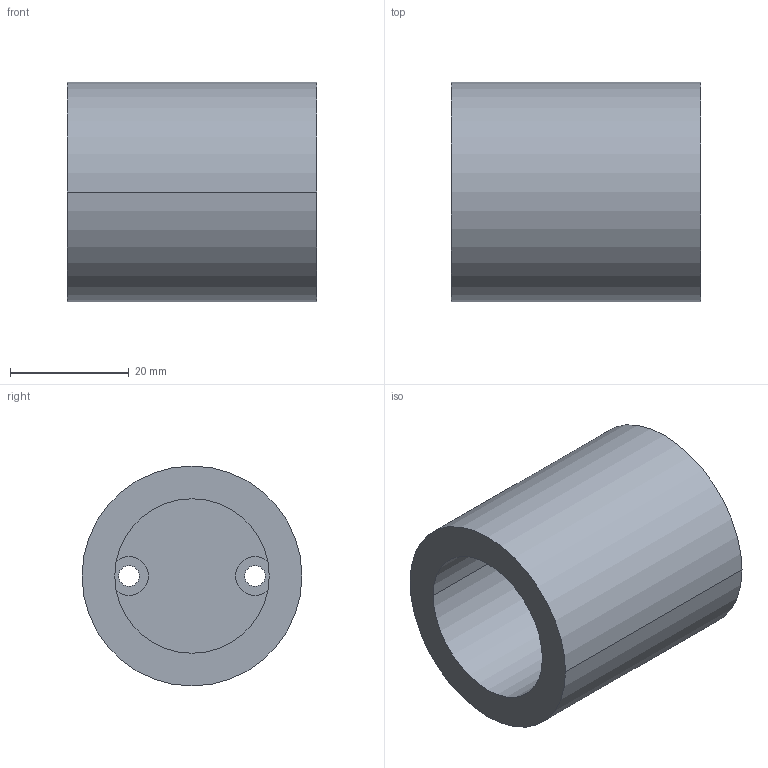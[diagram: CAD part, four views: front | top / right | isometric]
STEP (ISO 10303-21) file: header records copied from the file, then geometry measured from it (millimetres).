
FILE_DESCRIPTION(/* description */ ('(C) Elphel, Inc. 2012. Licensed under CERN OHL v.1.1 or later, see http://ohwr.org/cernohl'),/* implementation_level */ '2;1');
FILE_NAME(/* name */ '0353-25-31',/* time_stamp */ '2012-06-09T15:51:00-06:00',/* author */ (''),/* organization */ ('Elphel, Inc'),/* preprocessor_version */ 'ST-DEVELOPER v12',/* originating_system */ 'VariCAD 2012-1.04; kernel version (20100102)',/* authorisation */ '');
FILE_SCHEMA (('AUTOMOTIVE_DESIGN'));
Length unit declared in the file: millimetre
Products named in the file (1): Part
Bounding box: 42 x 37 x 37 mm (x, y, z)
Volume: 26902.6 mm3; surface area: 10514.8 mm2
Topology: 1 solids, 1 shells, 23 faces, 48 edges, 32 vertices
Faces by surface type: cylinder 16, plane 7
Entity records: 669 total; most frequent: DIRECTION 130, CARTESIAN_POINT 105, ORIENTED_EDGE 96, AXIS2_PLACEMENT_3D 57, EDGE_CURVE 48, EDGE_LOOP 32, CIRCLE 32, VERTEX_POINT 32
